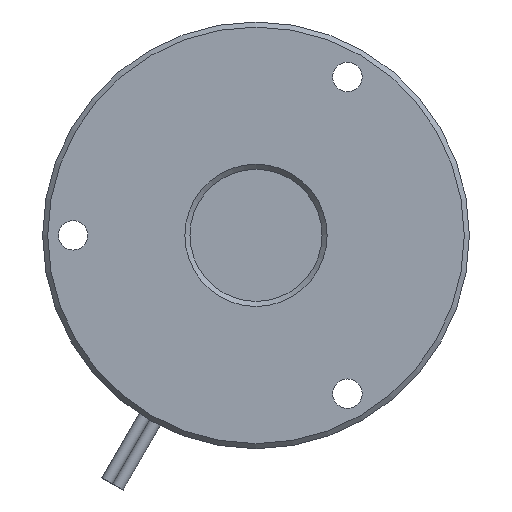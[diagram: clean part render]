
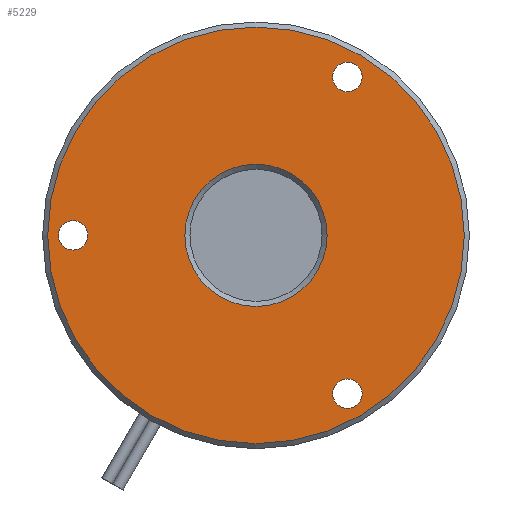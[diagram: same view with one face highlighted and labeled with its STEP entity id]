
A CAD part, left-side view. The second image highlights one B-rep face of the part: STEP entity #5229.
In plain terms, the highlighted planar face has unit normal (-1, 0, 0).
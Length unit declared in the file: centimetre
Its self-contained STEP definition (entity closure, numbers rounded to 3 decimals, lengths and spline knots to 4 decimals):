
#824=PLANE($,#5627);
#970=FACE_BOUND($,#1370,.T.);
#971=FACE_BOUND($,#1371,.T.);
#972=FACE_BOUND($,#1372,.T.);
#973=FACE_BOUND($,#1373,.T.);
#974=FACE_BOUND($,#1374,.T.);
#1370=EDGE_LOOP($,(#3423));
#1371=EDGE_LOOP($,(#3424));
#1372=EDGE_LOOP($,(#3425));
#1373=EDGE_LOOP($,(#3426));
#1374=EDGE_LOOP($,(#3427));
#1815=CIRCLE($,#5628,0.7);
#1816=CIRCLE($,#5629,2.05);
#1817=CIRCLE($,#5630,0.145);
#1818=CIRCLE($,#5631,0.145);
#1819=CIRCLE($,#5632,0.145);
#2151=VERTEX_POINT($,#7860);
#2152=VERTEX_POINT($,#7862);
#2153=VERTEX_POINT($,#7864);
#2154=VERTEX_POINT($,#7866);
#2155=VERTEX_POINT($,#7868);
#2660=EDGE_CURVE($,#2151,#2151,#1815,.T.);
#2661=EDGE_CURVE($,#2152,#2152,#1816,.T.);
#2662=EDGE_CURVE($,#2153,#2153,#1817,.T.);
#2663=EDGE_CURVE($,#2154,#2154,#1818,.T.);
#2664=EDGE_CURVE($,#2155,#2155,#1819,.T.);
#3423=ORIENTED_EDGE($,*,*,#2660,.F.);
#3424=ORIENTED_EDGE($,*,*,#2661,.F.);
#3425=ORIENTED_EDGE($,*,*,#2662,.T.);
#3426=ORIENTED_EDGE($,*,*,#2663,.T.);
#3427=ORIENTED_EDGE($,*,*,#2664,.T.);
#5229=ADVANCED_FACE($,(#970,#971,#972,#973,#974),#824,.F.);
#5627=AXIS2_PLACEMENT_3D($,#7859,#6355,#6356);
#5628=AXIS2_PLACEMENT_3D($,#7861,#6357,#6358);
#5629=AXIS2_PLACEMENT_3D($,#7863,#6359,#6360);
#5630=AXIS2_PLACEMENT_3D($,#7865,#6361,#6362);
#5631=AXIS2_PLACEMENT_3D($,#7867,#6363,#6364);
#5632=AXIS2_PLACEMENT_3D($,#7869,#6365,#6366);
#6355=DIRECTION('center_axis',(1.,0.,0.));
#6356=DIRECTION('ref_axis',(0.,0.,-1.));
#6357=DIRECTION('center_axis',(-1.,0.,0.));
#6358=DIRECTION('ref_axis',(0.,0.5,-0.866));
#6359=DIRECTION('center_axis',(1.,0.,0.));
#6360=DIRECTION('ref_axis',(0.,0.5,-0.866));
#6361=DIRECTION('center_axis',(1.,0.,0.));
#6362=DIRECTION('ref_axis',(0.,0.866,0.5));
#6363=DIRECTION('center_axis',(1.,0.,0.));
#6364=DIRECTION('ref_axis',(0.,-0.866,0.5));
#6365=DIRECTION('center_axis',(1.,0.,0.));
#6366=DIRECTION('ref_axis',(0.,0.,
-1.));
#7859=CARTESIAN_POINT('Origin',(0.,0.0541,
-1.0392));
#7860=CARTESIAN_POINT('',(0.,0.3041,0.6062));
#7861=CARTESIAN_POINT('Origin',(0.,0.6541,
0.));
#7862=CARTESIAN_POINT('',(0.,-0.3709,1.7754));
#7863=CARTESIAN_POINT('Origin',(0.,0.6541,
0.));
#7864=CARTESIAN_POINT('',(0.,-0.3715,1.4863));
#7865=CARTESIAN_POINT('Origin',(0.,-0.2459,
1.5588));
#7866=CARTESIAN_POINT('',(0.,-0.1204,-1.6313));
#7867=CARTESIAN_POINT('Origin',(0.,-0.2459,
-1.5588));
#7868=CARTESIAN_POINT('',(0.,2.4541,0.145));
#7869=CARTESIAN_POINT('Origin',(0.,2.4541,
0.));
